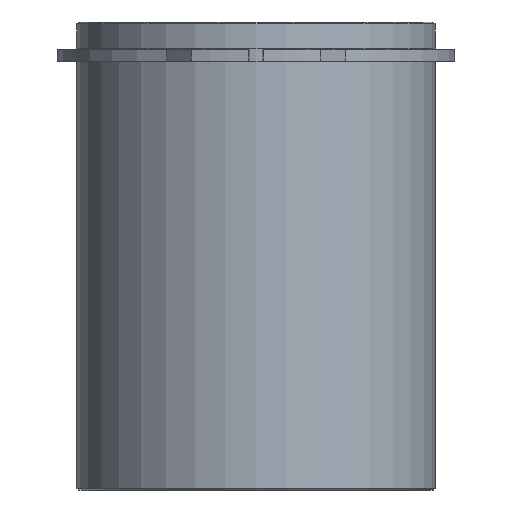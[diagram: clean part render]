
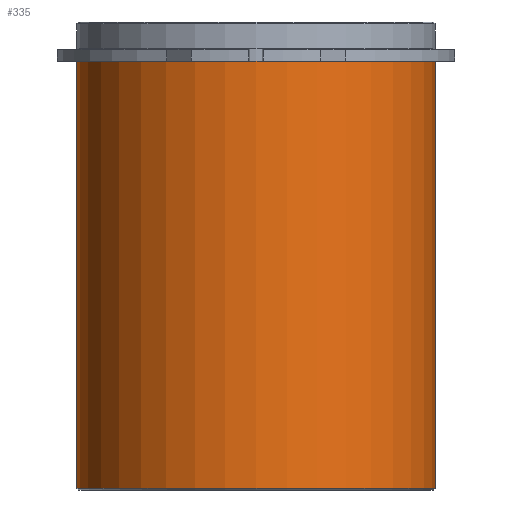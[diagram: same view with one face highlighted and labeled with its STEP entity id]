
A CAD part, front view. The second image highlights one B-rep face of the part: STEP entity #335.
In plain terms, the highlighted cylindrical face has radius 30.625 mm (diameter 61.25 mm), a partial arc.
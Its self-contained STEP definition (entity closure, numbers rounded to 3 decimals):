
#294=CARTESIAN_POINT('',(0.0,0.,-36.5));
#295=DIRECTION('',(0.0,0.,1.0));
#296=DIRECTION('',(1.0,0.0,0.0));
#297=AXIS2_PLACEMENT_3D('',#294,#295,#296);
#298=CYLINDRICAL_SURFACE('',#297,30.625);
#299=CARTESIAN_POINT('',(30.625,0.0,0.0));
#300=VERTEX_POINT('',#299);
#301=CARTESIAN_POINT('',(30.625,0.,-73.0));
#302=VERTEX_POINT('',#301);
#303=CARTESIAN_POINT('',(30.625,0.0,0.0));
#304=DIRECTION('',(0.0,0.0,-1.0));
#305=VECTOR('',#304,73.0);
#306=LINE('',#303,#305);
#307=EDGE_CURVE('',#300,#302,#306,.T.);
#308=ORIENTED_EDGE('',*,*,#307,.F.);
#309=CARTESIAN_POINT('',(-30.625,0.,0.0));
#310=VERTEX_POINT('',#309);
#311=CARTESIAN_POINT('',(0.0,0.0,0.0));
#312=DIRECTION('',(0.0,0.0,1.0));
#313=DIRECTION('',(1.0,0.0,0.0));
#314=AXIS2_PLACEMENT_3D('',#311,#312,#313);
#315=CIRCLE('',#314,30.625);
#316=EDGE_CURVE('',#310,#300,#315,.T.);
#317=ORIENTED_EDGE('',*,*,#316,.F.);
#318=CARTESIAN_POINT('',(-30.625,0.,-73.0));
#319=VERTEX_POINT('',#318);
#320=CARTESIAN_POINT('',(-30.625,0.,0.0));
#321=DIRECTION('',(0.0,0.0,-1.0));
#322=VECTOR('',#321,73.0);
#323=LINE('',#320,#322);
#324=EDGE_CURVE('',#310,#319,#323,.T.);
#325=ORIENTED_EDGE('',*,*,#324,.T.);
#326=CARTESIAN_POINT('',(0.0,0.,-73.0));
#327=DIRECTION('',(0.0,0.0,1.0));
#328=DIRECTION('',(1.0,0.0,0.0));
#329=AXIS2_PLACEMENT_3D('',#326,#327,#328);
#330=CIRCLE('',#329,30.625);
#331=EDGE_CURVE('',#319,#302,#330,.T.);
#332=ORIENTED_EDGE('',*,*,#331,.T.);
#333=EDGE_LOOP('',(#308,#317,#325,#332));
#334=FACE_OUTER_BOUND('',#333,.T.);
#335=ADVANCED_FACE('',(#334),#298,.T.);
